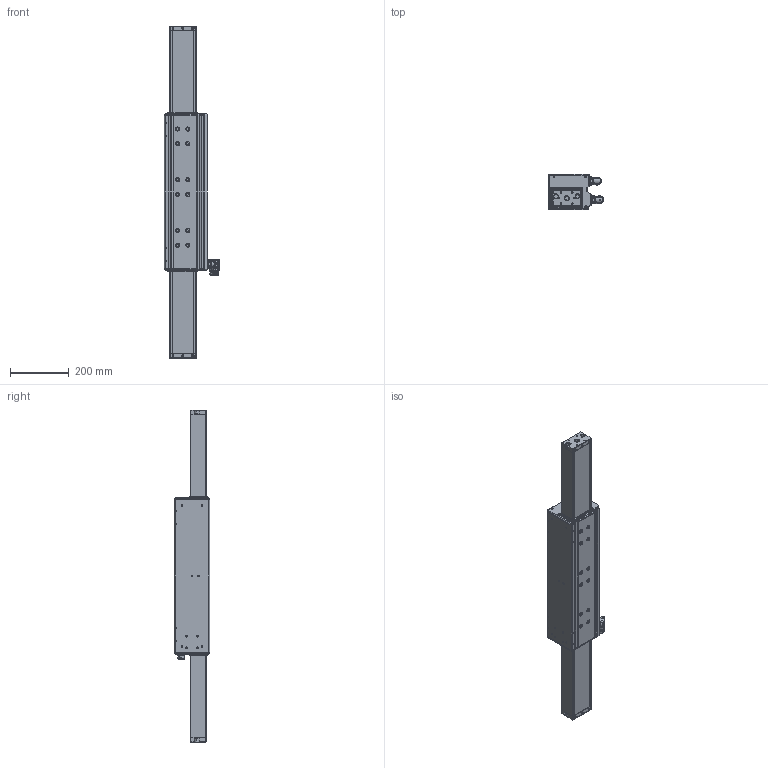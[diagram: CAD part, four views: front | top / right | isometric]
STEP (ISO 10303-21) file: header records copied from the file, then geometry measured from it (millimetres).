
FILE_DESCRIPTION (( 'STEP AP203' ), '1' );
FILE_NAME ('LDAT-S074050-XXX.STEP', '2012-05-23T06:28:44', ( '' ), ( '' ), 'SwSTEP 2.0', 'SolidWorks 2010', '' );
FILE_SCHEMA (( 'CONFIG_CONTROL_DESIGN' ));
Products named in the file (16): LDAT-S074050-XXX; Stator_frame50&75_400_Stator_frame50&75_400; stator_75_400SLDPRT; A805844-1; feedback_connector; A805844-2; A805844-3; power_connector; A805843-2; A805843-3_ASM; A805843-4; A805843-5; A805843-6; screw_m2.5_sockethead; Spring_75_400SLDPRT; Slider_frame75_400_LDAT-S074050-XXX
Assembly tree (32 placements, depth 5):
  LDAT-S074050-XXX
    Slider_frame75_400_LDAT-S074050-XXX
    Stator_frame50&75_400_Stator_frame50&75_400
      screw_m2.5_sockethead  x8
      Spring_75_400SLDPRT  x4
      A805844-1  x2
      stator_75_400SLDPRT
      feedback_connector
        A805844-3
        A805844-2  x2
      power_connector
        A805843-6  x2
        A805843-2  x2
        A805843-5  x4
        A805843-3_ASM
          A805843-4
Bounding box: 189.05 x 120 x 1131.76 mm (x, y, z)
Volume: 5032781.7 mm3; surface area: 1797459.1 mm2
Topology: 35 solids, 65 shells, 7253 faces, 20269 edges, 12984 vertices
Faces by surface type: cylinder 2459, bspline 2256, plane 2099, cone 387, torus 52
Entity records: 236731 total; most frequent: CARTESIAN_POINT 127088, ORIENTED_EDGE 25755, DIRECTION 17335, EDGE_CURVE 12893, VERTEX_POINT 8424, AXIS2_PLACEMENT_3D 6322, B_SPLINE_CURVE_WITH_KNOTS 5252, EDGE_LOOP 5165
